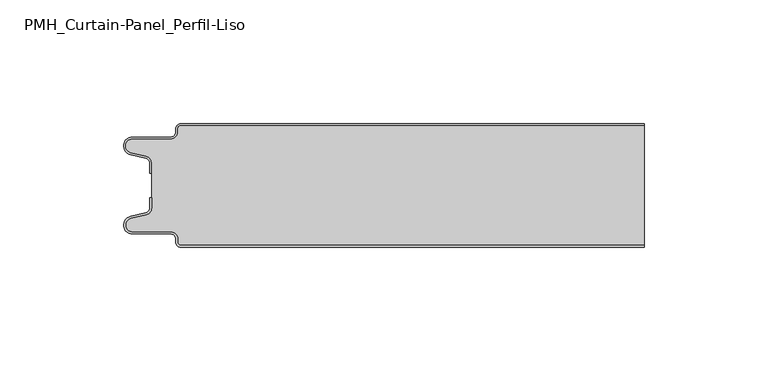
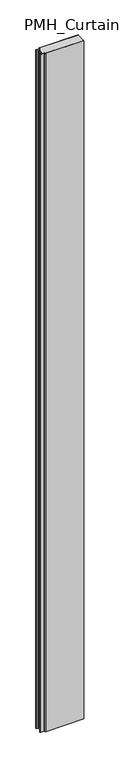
"""IFC4 building model written with IfcOpenShell, lengths in millimetres: plate geometry, PMH_Curtain-Panel_Perfil-Liso : ACH_PMH_Panel-Acústico-Sectorización_50M."""

from ifc_helpers import new_model, si_unit, point, frame_2d, origin, origin_with_axes, place, context, project, spatial, polyline, circle_curve, trimmed, segment, composite_curve, outline, extrude, source, transform, mapped, element, save


def pmh_curtain_panel_perfil_liso_ee175231(model_context):
    return source(origin(), model_context, "Body", "SweptSolid", [
        extrude(outline(composite_curve([segment(polyline([(-87.4119739, 0.8), (100.0119739, 0.8), (100.0119739, 0.0), (-87.4119739, 0.0)]), True, "CONTINUOUS"), segment(trimmed(circle_curve(frame_2d((-87.4119739, 2.0)), 2.0), [point((-87.4119739, 0.0))], [point((-89.4119739, 2.0))], False, "CARTESIAN"), True, "CONTINUOUS"), segment(polyline([(-89.4119739, 2.0), (-89.4119739, 3.4)]), True, "CONTINUOUS"), segment(trimmed(circle_curve(frame_2d((-91.4119739, 3.4)), 2.0), [point((-89.4119739, 3.4))], [point((-91.4119739, 5.4))], True, "CARTESIAN"), True, "CONTINUOUS"), segment(polyline([(-91.4119739, 5.4), (-106.9119739, 5.4)]), True, "CONTINUOUS"), segment(trimmed(circle_curve(frame_2d((-106.9119739, 9.0)), 3.6), [point((-106.9119739, 5.4))], [point((-107.7217979, 12.5077322))], False, "CARTESIAN"), True, "CONTINUOUS"), segment(polyline([(-107.7217979, 12.5077322), (-101.5620718, 13.929817)]), True, "CONTINUOUS"), segment(trimmed(circle_curve(frame_2d((-102.0119739, 15.878557)), 2.0), [point((-101.5620718, 13.929817))], [point((-100.0119739, 15.878557))], True, "CARTESIAN"), True, "CONTINUOUS"), segment(polyline([(-100.0119739, 15.878557), (-100.0119739, 20.0), (-99.2119739, 20.0), (-99.2119739, 15.878557)]), True, "CONTINUOUS"), segment(trimmed(circle_curve(frame_2d((-102.0119739, 15.878557)), 2.8), [point((-99.2119739, 15.878557))], [point((-101.3821109, 13.1503208))], False, "CARTESIAN"), True, "CONTINUOUS"), segment(polyline([(-101.3821109, 13.1503208), (-107.5418369, 11.728236)]), True, "CONTINUOUS"), segment(trimmed(circle_curve(frame_2d((-106.9119739, 9.0)), 2.8), [point((-107.5418369, 11.728236))], [point((-106.9119739, 6.2))], True, "CARTESIAN"), True, "CONTINUOUS"), segment(polyline([(-106.9119739, 6.2), (-91.4119739, 6.2)]), True, "CONTINUOUS"), segment(trimmed(circle_curve(frame_2d((-91.4119739, 3.4)), 2.8), [point((-91.4119739, 6.2))], [point((-88.6119739, 3.4))], False, "CARTESIAN"), True, "CONTINUOUS"), segment(polyline([(-88.6119739, 3.4), (-88.6119739, 2.0)]), True, "CONTINUOUS"), segment(trimmed(circle_curve(frame_2d((-87.4119739, 2.0)), 1.2), [point((-88.6119739, 2.0))], [point((-87.4119739, 0.8))], True, "CARTESIAN"), True, "CONTINUOUS")], self_intersect=False)), origin_with_axes(), (0.0, 0.0, 1.0), 3500.0),
        extrude(outline(composite_curve([segment(trimmed(circle_curve(frame_2d((-102.0119739, 34.1214426)), 2.8), [point((-99.2119739, 34.1214426))], [point((-101.3821109, 36.8496788))], True, "CARTESIAN"), True, "CONTINUOUS"), segment(polyline([(-101.3821109, 36.8496788), (-107.541837, 38.2717638)]), True, "CONTINUOUS"), segment(trimmed(circle_curve(frame_2d((-106.911974, 41.0)), 2.8), [point((-107.541837, 38.2717638))], [point((-106.911974, 43.8))], False, "CARTESIAN"), True, "CONTINUOUS"), segment(polyline([(-106.911974, 43.8), (-91.411974, 43.8)]), True, "CONTINUOUS"), segment(trimmed(circle_curve(frame_2d((-91.411974, 46.6)), 2.8), [point((-91.411974, 43.8))], [point((-88.611974, 46.6))], True, "CARTESIAN"), True, "CONTINUOUS"), segment(polyline([(-88.611974, 46.6), (-88.611974, 48.0)]), True, "CONTINUOUS"), segment(trimmed(circle_curve(frame_2d((-87.411974, 48.0)), 1.2), [point((-88.611974, 48.0))], [point((-87.411974, 49.2))], False, "CARTESIAN"), True, "CONTINUOUS"), segment(polyline([(-87.411974, 49.2), (100.0119739, 49.2), (100.0119739, 0.8), (-87.411974, 0.8)]), True, "CONTINUOUS"), segment(trimmed(circle_curve(frame_2d((-87.411974, 2.0)), 1.2), [point((-87.411974, 0.8))], [point((-88.611974, 2.0))], False, "CARTESIAN"), True, "CONTINUOUS"), segment(polyline([(-88.611974, 2.0), (-88.611974, 3.4)]), True, "CONTINUOUS"), segment(trimmed(circle_curve(frame_2d((-91.411974, 3.4)), 2.8), [point((-88.611974, 3.4))], [point((-91.411974, 6.2))], True, "CARTESIAN"), True, "CONTINUOUS"), segment(polyline([(-91.411974, 6.2), (-106.911974, 6.2)]), True, "CONTINUOUS"), segment(trimmed(circle_curve(frame_2d((-106.911974, 9.0)), 2.8), [point((-106.911974, 6.2))], [point((-107.541837, 11.7282362))], False, "CARTESIAN"), True, "CONTINUOUS"), segment(polyline([(-107.541837, 11.7282362), (-101.3821109, 13.1503212)]), True, "CONTINUOUS"), segment(trimmed(circle_curve(frame_2d((-102.0119739, 15.8785573)), 2.8), [point((-101.3821109, 13.1503212))], [point((-99.2119739, 15.8785573))], True, "CARTESIAN"), True, "CONTINUOUS"), segment(polyline([(-99.2119739, 15.8785573), (-99.2119739, 34.1214426)]), True, "CONTINUOUS")], self_intersect=False)), origin_with_axes(), (0.0, 0.0, 1.0), 3500.0),
        extrude(outline(composite_curve([segment(polyline([(-87.4119739, 50.0), (100.0119739, 50.0), (100.0119739, 49.2), (-87.4119739, 49.2)]), True, "CONTINUOUS"), segment(trimmed(circle_curve(frame_2d((-87.4119739, 48.0)), 1.2), [point((-87.4119739, 49.2))], [point((-88.6119739, 48.0))], True, "CARTESIAN"), True, "CONTINUOUS"), segment(polyline([(-88.6119739, 48.0), (-88.6119739, 46.6)]), True, "CONTINUOUS"), segment(trimmed(circle_curve(frame_2d((-91.4119739, 46.6)), 2.8), [point((-88.6119739, 46.6))], [point((-91.4119739, 43.8))], False, "CARTESIAN"), True, "CONTINUOUS"), segment(polyline([(-91.4119739, 43.8), (-106.9119739, 43.8)]), True, "CONTINUOUS"), segment(trimmed(circle_curve(frame_2d((-106.9119739, 41.0)), 2.8), [point((-106.9119739, 43.8))], [point((-107.541837, 38.2717638))], True, "CARTESIAN"), True, "CONTINUOUS"), segment(polyline([(-107.541837, 38.2717638), (-101.3821109, 36.849679)]), True, "CONTINUOUS"), segment(trimmed(circle_curve(frame_2d((-102.0119739, 34.121443)), 2.8), [point((-101.3821109, 36.849679))], [point((-99.2119739, 34.121443))], False, "CARTESIAN"), True, "CONTINUOUS"), segment(polyline([(-99.2119739, 34.121443), (-99.2119739, 30.0), (-100.0119739, 30.0), (-100.0119739, 34.121443)]), True, "CONTINUOUS"), segment(trimmed(circle_curve(frame_2d((-102.0119739, 34.121443)), 2.0), [point((-100.0119739, 34.121443))], [point((-101.5620718, 36.0701831))], True, "CARTESIAN"), True, "CONTINUOUS"), segment(polyline([(-101.5620718, 36.0701831), (-107.7217978, 37.492268)]), True, "CONTINUOUS"), segment(trimmed(circle_curve(frame_2d((-106.9119739, 41.0)), 3.6), [point((-107.7217978, 37.492268))], [point((-106.9119739, 44.6))], False, "CARTESIAN"), True, "CONTINUOUS"), segment(polyline([(-106.9119739, 44.6), (-91.4119739, 44.6)]), True, "CONTINUOUS"), segment(trimmed(circle_curve(frame_2d((-91.4119739, 46.6)), 2.0), [point((-91.4119739, 44.6))], [point((-89.4119739, 46.6))], True, "CARTESIAN"), True, "CONTINUOUS"), segment(polyline([(-89.4119739, 46.6), (-89.4119739, 48.0)]), True, "CONTINUOUS"), segment(trimmed(circle_curve(frame_2d((-87.4119739, 48.0)), 2.0), [point((-89.4119739, 48.0))], [point((-87.4119739, 50.0))], False, "CARTESIAN"), True, "CONTINUOUS")], self_intersect=False)), origin_with_axes(), (0.0, 0.0, 1.0), 3500.0),
    ])


if __name__ == "__main__":
    model = new_model("IFC4")
    model_context = context("Model", 3, world=origin())
    ifc_project = project(units=[si_unit("LENGTHUNIT", "METRE", prefix="MILLI")], contexts=[model_context])
    site = spatial("IfcSite", under=ifc_project)
    building = spatial("IfcBuilding", under=site)
    placement = place(None, origin())
    pmh_curtain_panel_perfil_liso_shape = pmh_curtain_panel_perfil_liso_ee175231(model_context)
    element("IfcPlate", 1, ObjectType="PMH_Curtain-Panel_Perfil-Liso : ACH_PMH_Panel-Acústico-Sectorización_50M", at=placement, inside=building, context=model_context, shape_type="MappedRepresentation", body=[
        mapped(pmh_curtain_panel_perfil_liso_shape, transform((0.0, 0.0, 0.0), x_axis=(1.0, 0.0, 0.0), y_axis=(0.0, 1.0, 0.0), z_axis=(0.0, 0.0, 1.0))),
    ])
    save(model, "model.ifc")
